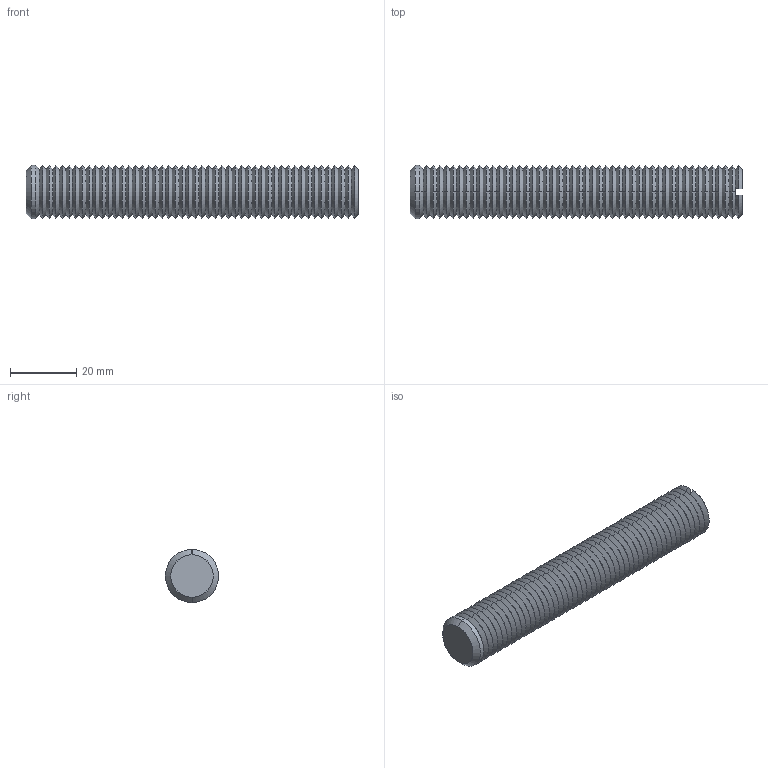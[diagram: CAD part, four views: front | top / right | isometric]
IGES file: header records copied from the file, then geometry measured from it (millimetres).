
Start section: SolidWorks IGES file using analytic representation for surfaces
Global section: file name: C:\Documents and Settings\IANO\Desktop\Temp File\Process pending\EXISTING\34300_v2\34300_v2_20170622_IGES\34300.W0169.igs; native system: SolidWorks 2009; preprocessor: SolidWorks 2009; author: IANO; date: 170622.094527; units: millimetre
Bounding box: 100 x 16 x 16 mm (x, y, z)
Surface area: 7682.4 mm2 (no closed solid volume)
Topology: 0 solids, 0 shells, 204 faces, 880 edges, 880 vertices
Faces by surface type: revolution 198, bspline 6
